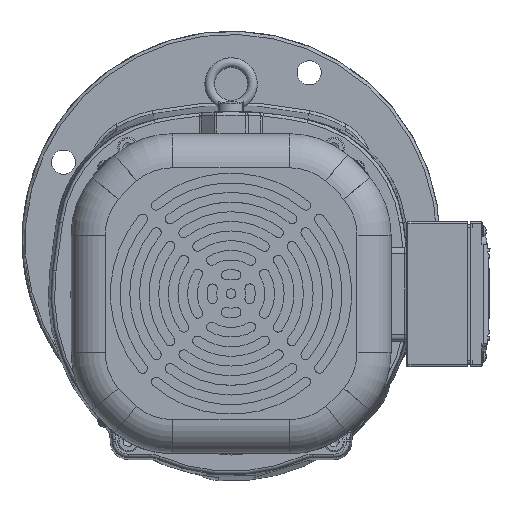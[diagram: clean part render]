
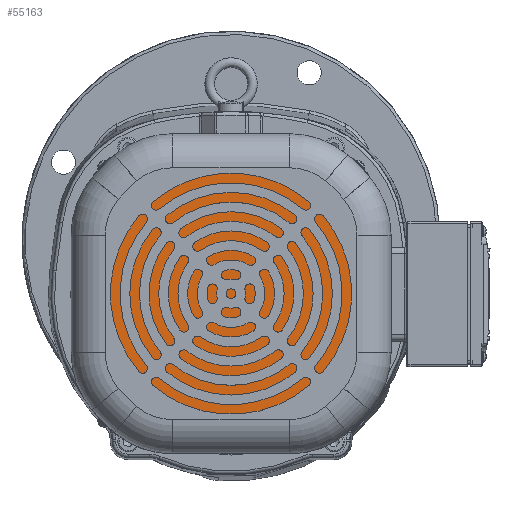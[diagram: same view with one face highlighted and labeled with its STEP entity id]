
A CAD part, top view. The second image highlights one B-rep face of the part: STEP entity #55163.
In plain terms, the highlighted planar face has unit normal (0, 0, 1).
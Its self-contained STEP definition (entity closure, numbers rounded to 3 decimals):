
#1366=PLANE('',#59400);
#9147=FACE_OUTER_BOUND('',#12575,.T.);
#12575=EDGE_LOOP('',(#38416));
#16041=CIRCLE('',#59398,87.5);
#22162=VERTEX_POINT('',#84646);
#27990=EDGE_CURVE('',#22162,#22162,#16041,.T.);
#38416=ORIENTED_EDGE('',*,*,#27990,.F.);
#55163=ADVANCED_FACE('',(#9147),#1366,.F.);
#59398=AXIS2_PLACEMENT_3D('',#84647,#68221,#68222);
#59400=AXIS2_PLACEMENT_3D('',#84651,#68226,#68227);
#68221=DIRECTION('center_axis',(0.,0.,
-1.));
#68222=DIRECTION('ref_axis',(-0.707,0.707,0.));
#68226=DIRECTION('center_axis',(0.,0.,
-1.));
#68227=DIRECTION('ref_axis',(-0.707,0.707,0.));
#84646=CARTESIAN_POINT('',(48.235,-79.365,361.676));
#84647=CARTESIAN_POINT('Origin',(-13.636,-17.494,361.676));
#84651=CARTESIAN_POINT('Origin',(-13.636,-17.494,361.676));
